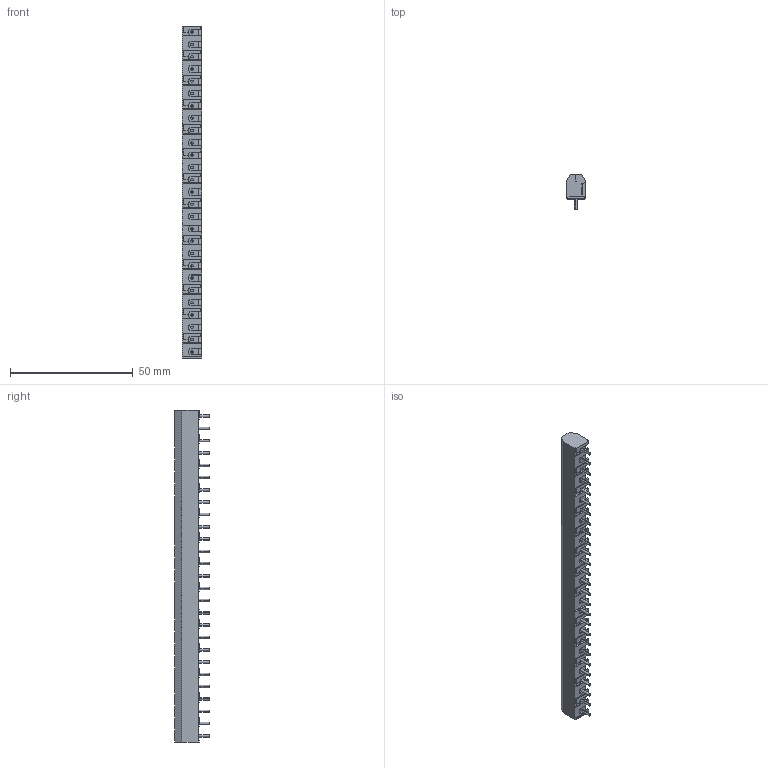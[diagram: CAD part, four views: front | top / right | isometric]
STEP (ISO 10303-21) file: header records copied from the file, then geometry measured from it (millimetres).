
FILE_DESCRIPTION (( 'STEP AP214' ), '1' );
FILE_NAME ('950-FB-27.STEP', '2008-03-28T03:39:11', ( ' ' ), ( '' ), 'SwSTEP 2.0', 'SolidWorks 2007', '' );
FILE_SCHEMA (( 'AUTOMOTIVE_DESIGN' ));
Products named in the file (1): 950-FB-27
Bounding box: 8 x 14.2 x 135 mm (x, y, z)
Volume: 7565.2 mm3; surface area: 8241 mm2
Topology: 1 solids, 1 shells, 1983 faces, 5816 edges, 3862 vertices
Faces by surface type: plane 1472, cylinder 445, cone 66
Entity records: 71035 total; most frequent: CARTESIAN_POINT 20024, ORIENTED_EDGE 11632, DIRECTION 9198, EDGE_CURVE 5816, LINE 4042, VECTOR 4042, VERTEX_POINT 3862, AXIS2_PLACEMENT_3D 2578
